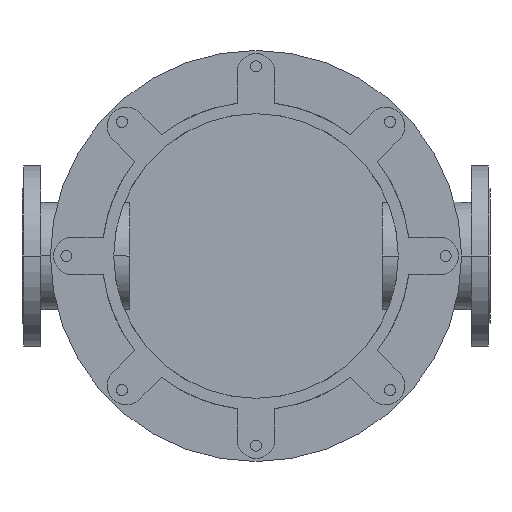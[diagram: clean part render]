
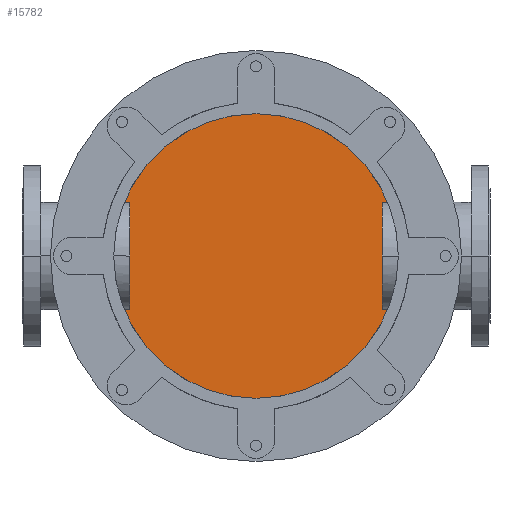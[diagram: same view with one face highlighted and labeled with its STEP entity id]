
A CAD part, front view. The second image highlights one B-rep face of the part: STEP entity #15782.
In plain terms, the highlighted planar face has unit normal (0, -1, 0).
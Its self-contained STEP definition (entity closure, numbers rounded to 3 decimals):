
#4398=CARTESIAN_POINT('',(0.,1004.,0.));
#4399=DIRECTION('',(0.,-1.,0.));
#4400=DIRECTION('',(0.,0.,1.));
#4401=AXIS2_PLACEMENT_3D('',#4398,#4399,#4400);
#4525=CARTESIAN_POINT('',(0.,1004.,0.));
#4526=DIRECTION('',(0.,-1.,0.));
#4527=DIRECTION('',(0.,0.,-1.));
#4528=AXIS2_PLACEMENT_3D('',#4525,#4526,#4527);
#9710=CARTESIAN_POINT('',(0.,1004.,240.));
#9711=CARTESIAN_POINT('',(0.,1004.,-240.));
#9712=VERTEX_POINT('',#9710);
#9713=VERTEX_POINT('',#9711);
#15772=CARTESIAN_POINT('',(0.,1004.,0.));
#15773=DIRECTION('',(0.,1.,0.));
#15774=DIRECTION('',(0.,0.,-1.));
#15775=AXIS2_PLACEMENT_3D('',#15772,#15773,#15774);
#15776=PLANE('',#15775);
#15777=ORIENTED_EDGE('',*,*,#15756,.F.);
#15779=ORIENTED_EDGE('',*,*,#15778,.F.);
#15780=EDGE_LOOP('',(#15777,#15779));
#15781=FACE_OUTER_BOUND('',#15780,.F.);
#15782=ADVANCED_FACE('',(#15781),#15776,.F.);
#4402=CIRCLE('',#4401,240.);
#4529=CIRCLE('',#4528,240.);
#15756=EDGE_CURVE('',#9712,#9713,#4402,.T.);
#15778=EDGE_CURVE('',#9713,#9712,#4529,.T.);
